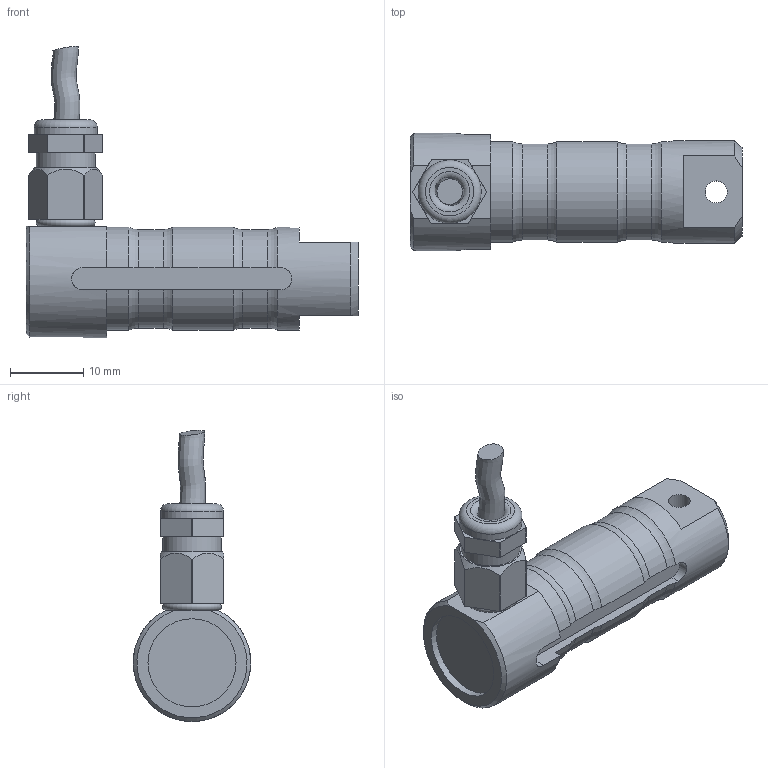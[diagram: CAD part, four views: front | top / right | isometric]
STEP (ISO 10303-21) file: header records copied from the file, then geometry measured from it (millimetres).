
FILE_DESCRIPTION(/* description */ ('Alibre Inc.'),/* implementation_level */ '2;1');
FILE_NAME(/* name */ 'export-435013BC-E09B-456A-B2A6-39822E335F5C',/* time_stamp */ '2019-01-08T08:55:54+01:00',/* author */ (''),/* organization */ (''),/* preprocessor_version */ 'ST-DEVELOPER v17',/* originating_system */ 'Alibre',/* authorisation */ '');
FILE_SCHEMA (('CONFIG_CONTROL_DESIGN'));
Length unit declared in the file: millimetre
Products named in the file (6): ID_1; ID_2; ID_3
Bounding box: 45.2 x 16 x 39.64 mm (x, y, z)
Volume: 7407.3 mm3; surface area: 3774.8 mm2
Topology: 4 solids, 4 shells, 88 faces, 228 edges, 152 vertices
Faces by surface type: plane 37, cylinder 33, torus 11, cone 6, bspline 1
Full cylindrical faces by diameter (mm): 3 x1, 3.5 x1, 5.5 x1, 6 x1, 8 x1, 8.6 x1, 12 x1, 14 x1
Entity records: 3407 total; most frequent: CARTESIAN_POINT 979, ORIENTED_EDGE 418, DIRECTION 299, EDGE_CURVE 209, VERTEX_POINT 148, AXIS2_PLACEMENT_3D 121, FACE_BOUND 111, EDGE_LOOP 110
